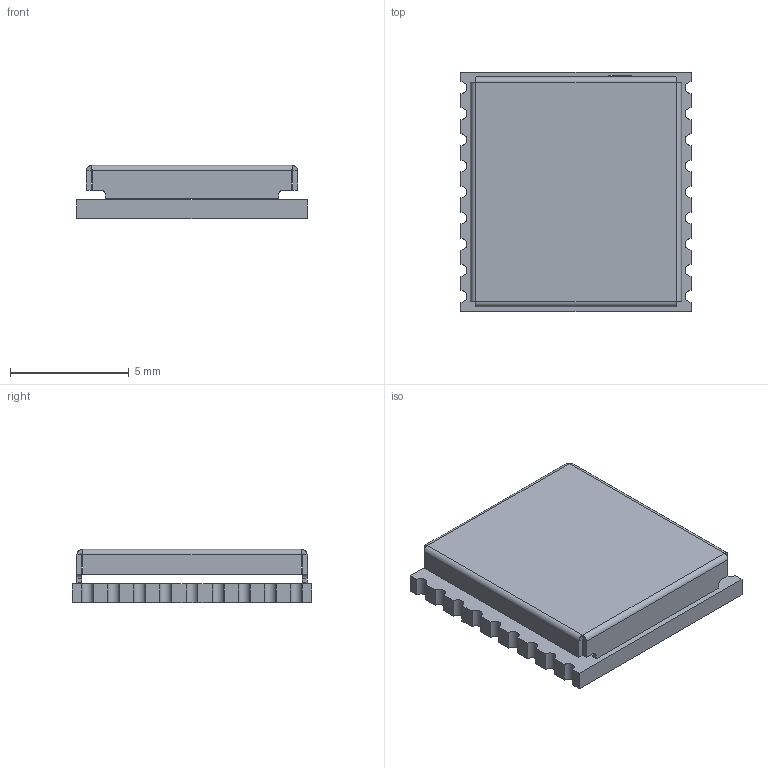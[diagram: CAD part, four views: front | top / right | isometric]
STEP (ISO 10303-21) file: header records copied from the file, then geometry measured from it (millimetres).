
FILE_DESCRIPTION(('KiCad electronic assembly'),'2;1');
FILE_NAME('E108-GN03-V1.1.step','2024-06-14T11:48:07',('Pcbnew'),( 'Kicad'),'Open CASCADE STEP processor 7.7','KiCad to STEP converter' ,'Unknown');
FILE_SCHEMA(('AUTOMOTIVE_DESIGN { 1 0 10303 214 1 1 1 1 }'));
Length unit declared in the file: millimetre
Products named in the file (4): E108-GN03-V1.1 1; PBZ-88; E108-GN03-V1.1_PCB
Assembly tree (3 placements, depth 3):
  E108-GN03-V1.1 1
    PBZ-88
      PBZ-88
    E108-GN03-V1.1_PCB
Bounding box: 9.7 x 10.1 x 2.25 mm (x, y, z)
Volume: 100.5 mm3; surface area: 478.3 mm2
Topology: 2 solids, 2 shells, 108 faces, 280 edges, 176 vertices
Faces by surface type: plane 60, cylinder 40, bspline 8
Entity records: 3530 total; most frequent: CARTESIAN_POINT 816, ORIENTED_EDGE 560, DIRECTION 536, EDGE_CURVE 280, LINE 200, VECTOR 200, VERTEX_POINT 176, AXIS2_PLACEMENT_3D 168
